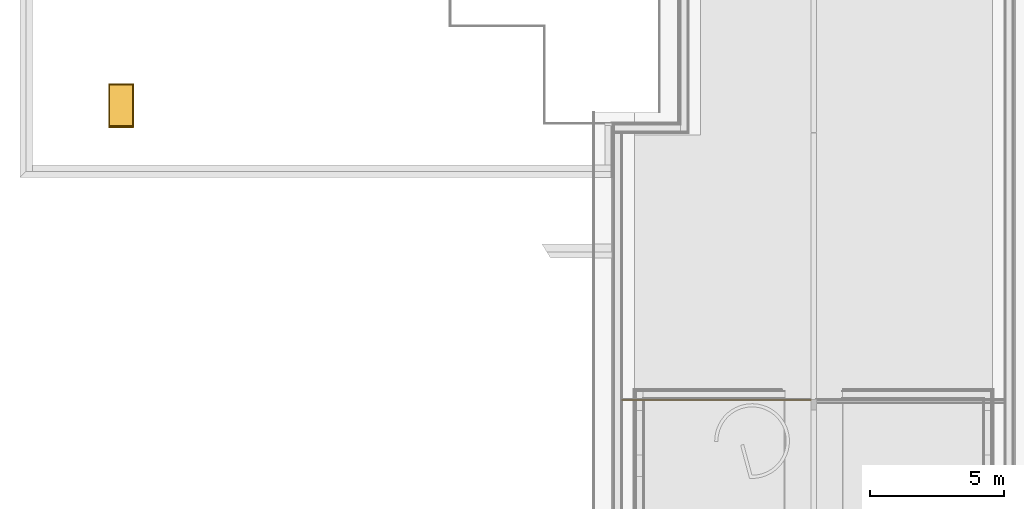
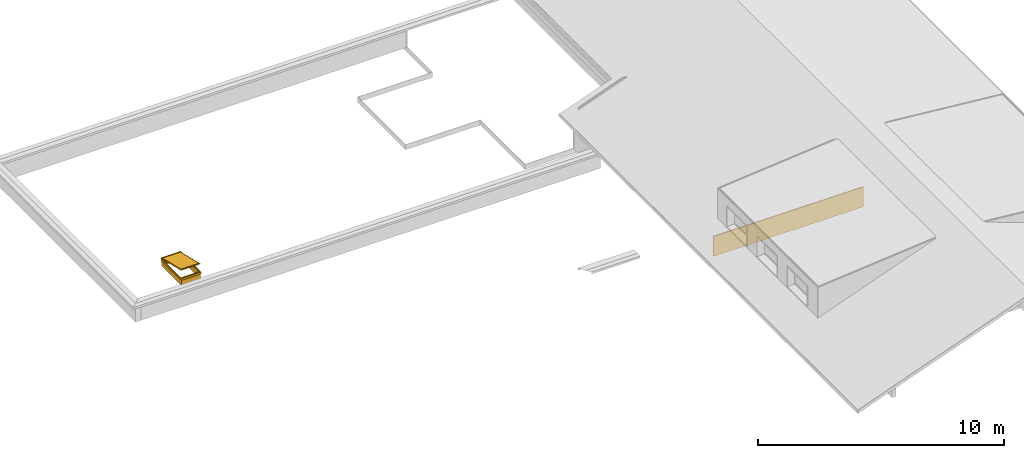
# One storey, part 11 of 12: 1 railing, 1 window.
"""IFC4 building model written with IfcOpenShell, lengths in millimetres."""

import ifcopenshell
import ifcopenshell.guid

model = None  # the IFC model being written
_history = None  # IfcOwnerHistory: only IFC2X3 demands one
_inside = {}  # id of a spatial element -> (the spatial element, [elements in it])
_under = {}  # id of a project, library or spatial element -> (it, [spatial elements below it])
_declared = {}  # id of a project -> (the project, [libraries it declares])
_typed = {}  # id of a type object -> (the type object, [elements of that type])
_made_of = {}  # id of a material, layer set ... -> (it, [elements and type objects made of it])


def new_model(schema):
    """Start an empty IFC model of exactly this schema.

    Asked for "IFC4X3", IfcOpenShell would pick the latest addendum, in which some entities
    have other attributes; the version numbers below select the first issue.
    IFC2X3 requires an IfcOwnerHistory on every rooted entity: one is made here for all.
    """
    global model, _history
    if schema == "IFC4X3":
        model = ifcopenshell.file(schema_version=(4, 3, 0, 0))
    else:
        model = ifcopenshell.file(schema=schema)
    _inside.clear()
    _under.clear()
    _declared.clear()
    _typed.clear()
    _made_of.clear()
    _history = None
    if model.schema == "IFC2X3":
        org = make("IfcOrganization", Name="unknown")
        user = make(
            "IfcPersonAndOrganization",
            ThePerson=make("IfcPerson", FamilyName="unknown"),
            TheOrganization=org,
        )
        app = make(
            "IfcApplication",
            ApplicationDeveloper=org,
            Version="unknown",
            ApplicationFullName="unknown",
            ApplicationIdentifier="unknown",
        )
        _history = make(
            "IfcOwnerHistory",
            OwningUser=user,
            OwningApplication=app,
            ChangeAction="ADDED",
            CreationDate=0,
        )
    return model


def make(cls, **values):
    """One entity of the class cls with the attributes given. An attribute that is None is left unset."""
    return model.create_entity(
        cls, **{name: value for name, value in values.items() if value is not None}
    )


def entity(cls, *values):
    """Any entity or typed value of the class cls, its attributes in the order of the schema. None: left unset."""
    e = model.create_entity(cls)
    for i, value in enumerate(values):
        if value is not None:
            e[i] = value
    return e


def rooted(cls, **values):
    """An entity with a GlobalId (a new one), such as an element, a storey or a relation."""
    return make(cls, GlobalId=ifcopenshell.guid.new(), OwnerHistory=_history, **values)


def si_unit(unit_type, name, prefix=None):
    """IfcSIUnit, for example si_unit("LENGTHUNIT", "METRE", prefix="MILLI")."""
    return make("IfcSIUnit", UnitType=unit_type, Prefix=prefix, Name=name)


def converted_unit(unit_type, name, factor, base, dimensions=None, offset=None):
    """IfcConversionBasedUnit, such as the inch: factor (a typed value) times the base unit."""
    return make(
        "IfcConversionBasedUnit"
        if offset is None
        else "IfcConversionBasedUnitWithOffset",
        ConversionOffset=offset,
        Dimensions=None
        if dimensions is None
        else entity("IfcDimensionalExponents", *dimensions),
        UnitType=unit_type,
        Name=name,
        ConversionFactor=make(
            "IfcMeasureWithUnit", ValueComponent=factor, UnitComponent=base
        ),
    )


def derived_unit(unit_type, elements):
    """IfcDerivedUnit: a product of units, each with its exponent."""
    return make(
        "IfcDerivedUnit",
        Elements=[
            make("IfcDerivedUnitElement", Unit=unit, Exponent=power)
            for unit, power in elements
        ],
        UnitType=unit_type,
    )


def assignment(units):
    """IfcUnitAssignment: the units of a project."""
    return None if units is None else make("IfcUnitAssignment", Units=units)


def point(xyz):
    """IfcCartesianPoint."""
    return None if xyz is None else make("IfcCartesianPoint", Coordinates=xyz)


def direction(xyz):
    """IfcDirection."""
    return None if xyz is None else make("IfcDirection", DirectionRatios=xyz)


def frame(location, z_axis=None, x_axis=None):
    """IfcAxis2Placement3D, a coordinate frame: its origin and axes. An axis left out is left unset."""
    return make(
        "IfcAxis2Placement3D",
        Location=point(location),
        Axis=direction(z_axis),
        RefDirection=direction(x_axis),
    )


def origin_with_axes():
    """The frame at (0, 0, 0) with the z axis (0, 0, 1) and the x axis (1, 0, 0) written out."""
    return frame((0.0, 0.0, 0.0), z_axis=(0.0, 0.0, 1.0), x_axis=(1.0, 0.0, 0.0))


def place(relative_to, where):
    """IfcLocalPlacement: puts the frame where relative to a parent placement (None: the world)."""
    return make(
        "IfcLocalPlacement", PlacementRelTo=relative_to, RelativePlacement=where
    )


def context(
    kind, dimensions, precision=None, world=None, true_north=None, identifier=None
):
    """IfcGeometricRepresentationContext, for example the 3D "Model" context."""
    return make(
        "IfcGeometricRepresentationContext",
        ContextIdentifier=identifier,
        ContextType=kind,
        CoordinateSpaceDimension=dimensions,
        Precision=precision,
        WorldCoordinateSystem=world,
        TrueNorth=true_north,
    )


def subcontext(parent, identifier, kind, view, scale=None):
    """IfcGeometricRepresentationSubContext, for example "Body" below "Model"."""
    return make(
        "IfcGeometricRepresentationSubContext",
        ContextIdentifier=identifier,
        ContextType=kind,
        ParentContext=parent,
        TargetScale=scale,
        TargetView=view,
    )


def project(units=None, contexts=None):
    """IfcProject with its units and contexts."""
    return rooted(
        "IfcProject",
        Name="project",
        RepresentationContexts=contexts,
        UnitsInContext=assignment(units),
    )


def spatial(cls, under=None, at=None, **own):
    """A site, building, storey or space (cls), placed at a placement, below another one or the project."""
    s = rooted(cls, ObjectPlacement=at, **own)
    if under is not None:
        _under.setdefault(under.id(), (under, []))[1].append(s)
    return s


def point_list(points):
    """IfcCartesianPointList2D or 3D."""
    cls = (
        "IfcCartesianPointList2D" if len(points[0]) == 2 else "IfcCartesianPointList3D"
    )
    return make(cls, CoordList=points)


def polygons(points, faces, closed=None, point_numbers=None):
    """IfcPolygonalFaceSet: a face is its outer loop, then its inner loops; points numbered from 1."""
    made = []
    for loops in faces:
        if len(loops) == 1:
            made.append(make("IfcIndexedPolygonalFace", CoordIndex=loops[0]))
        else:
            made.append(
                make(
                    "IfcIndexedPolygonalFaceWithVoids",
                    CoordIndex=loops[0],
                    InnerCoordIndices=loops[1:],
                )
            )
    return make(
        "IfcPolygonalFaceSet",
        Coordinates=point_list(points),
        Closed=closed,
        Faces=made,
        PnIndex=point_numbers,
    )


def shape(context_of_items, identifier, shape_type, items):
    """IfcShapeRepresentation: the items that make up one representation, for example the "Body"."""
    return make(
        "IfcShapeRepresentation",
        ContextOfItems=context_of_items,
        RepresentationIdentifier=identifier,
        RepresentationType=shape_type,
        Items=items,
    )


def material(Name=None, Category=None):
    """IfcMaterial."""
    return make("IfcMaterial", Name=Name, Category=Category)


def constituent(of_material, Name=None, Category=None, fraction=None):
    """IfcMaterialConstituent: one of the materials an element consists of."""
    return make(
        "IfcMaterialConstituent",
        Name=Name,
        Material=of_material,
        Fraction=fraction,
        Category=Category,
    )


def constituent_set(constituents=None, Name=None):
    """IfcMaterialConstituentSet."""
    return make(
        "IfcMaterialConstituentSet", Name=Name, MaterialConstituents=constituents
    )


def made_of(thing, what):
    """Note that an element or type object is made of a material, layer set ...; save() writes the relation."""
    if what is not None:
        _made_of.setdefault(what.id(), (what, []))[1].append(thing)
    return thing


def type_object(cls, material=None, **own):
    """A type object (cls), such as IfcWallType, which elements share."""
    return made_of(rooted(cls, **own), material)


def element(
    cls,
    number,
    at=None,
    inside=None,
    cuts=None,
    type_object=None,
    material=None,
    context=None,
    identifier="Body",
    shape_type=None,
    held_by="IfcProductDefinitionShape",
    body=None,
    shapes=None,
    **own,
):
    """One element of the class cls, such as IfcWall. Its Tag is "e" and its number.

    at: its placement. inside: the storey or other place that contains it. cuts: it is an
    opening in that element (IfcRelVoidsElement). A single representation is given by context,
    identifier, shape_type and body (its items); several are given by shapes. held_by: the class
    of the entity that holds the representations. save() writes the other relations.
    """
    e = rooted(cls, Tag="e%d" % number, ObjectPlacement=at, **own)
    if body is not None:
        shapes = [shape(context, identifier, shape_type, body)]
    if shapes is not None:
        e.Representation = make(held_by, Representations=shapes)
    if inside is not None:
        _inside.setdefault(inside.id(), (inside, []))[1].append(e)
    if cuts is not None:
        rooted(
            "IfcRelVoidsElement", RelatingBuildingElement=cuts, RelatedOpeningElement=e
        )
    if type_object is not None:
        _typed.setdefault(type_object.id(), (type_object, []))[1].append(e)
    return made_of(e, material)


def aggregate(whole, parts):
    """IfcRelAggregates: a whole, such as a stair, and the parts it consists of."""
    return rooted("IfcRelAggregates", RelatingObject=whole, RelatedObjects=parts)


def save(model, path):
    """Write the relations noted so far, then the file.

    IfcRelAggregates (storeys below a building ...), IfcRelContainedInSpatialStructure (elements
    in a storey), IfcRelDefinesByType, IfcRelAssociatesMaterial and IfcRelDeclares: one each for
    every whole, place, type object, material and project.
    """
    for whole, parts in _under.values():
        aggregate(whole, parts)
    for where, things in _inside.values():
        rooted(
            "IfcRelContainedInSpatialStructure",
            RelatedElements=things,
            RelatingStructure=where,
        )
    for kind, things in _typed.values():
        rooted("IfcRelDefinesByType", RelatedObjects=things, RelatingType=kind)
    for what, things in _made_of.values():
        rooted("IfcRelAssociatesMaterial", RelatedObjects=things, RelatingMaterial=what)
    for by, libraries in _declared.values():
        rooted("IfcRelDeclares", RelatingContext=by, RelatedDefinitions=libraries)
    model.write(path)


model = new_model("IFC4")

# Units and contexts
model_context = context("Model", 3, precision=0.01, world=origin_with_axes(), true_north=direction((0.0, 1.0)))
body_context = subcontext(model_context, "Body", "Model", "MODEL_VIEW")
ifc_project = project(units=[si_unit("LENGTHUNIT", "METRE", prefix="MILLI"), si_unit("AREAUNIT", "SQUARE_METRE"), si_unit("VOLUMEUNIT", "CUBIC_METRE"), converted_unit("PLANEANGLEUNIT", "DEGREE", entity("IfcPlaneAngleMeasure", 0.0174532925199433), si_unit("PLANEANGLEUNIT", "RADIAN"), dimensions=[0, 0, 0, 0, 0, 0, 0]), converted_unit("TIMEUNIT", "Year", entity("IfcTimeMeasure", 31557600.0), si_unit("TIMEUNIT", "SECOND"), dimensions=[0, 0, 1, 0, 0, 0, 0]), si_unit("MASSUNIT", "GRAM", prefix="KILO"), si_unit("THERMODYNAMICTEMPERATUREUNIT", "DEGREE_CELSIUS"), si_unit("LUMINOUSINTENSITYUNIT", "LUMEN"), si_unit("ENERGYUNIT", "JOULE", prefix="MEGA"), derived_unit("THERMALCONDUCTANCEUNIT", [(si_unit("POWERUNIT", "WATT"), 1), (si_unit("LENGTHUNIT", "METRE"), -1), (si_unit("THERMODYNAMICTEMPERATUREUNIT", "KELVIN"), -1)]), derived_unit("SPECIFICHEATCAPACITYUNIT", [(si_unit("ENERGYUNIT", "JOULE"), 1), (si_unit("MASSUNIT", "GRAM", prefix="KILO"), -1), (si_unit("THERMODYNAMICTEMPERATUREUNIT", "KELVIN"), -1)]), derived_unit("MASSDENSITYUNIT", [(si_unit("MASSUNIT", "GRAM", prefix="KILO"), 1), (si_unit("VOLUMEUNIT", "CUBIC_METRE"), -1)])], contexts=[model_context])

# Site, building, storey
site_placement = place(None, origin_with_axes())
site = spatial("IfcSite", under=ifc_project, at=site_placement, Name="Gelände", CompositionType="ELEMENT")
building_placement = place(site_placement, origin_with_axes())
building = spatial("IfcBuilding", under=site, at=building_placement, Name="Gebäude", CompositionType="ELEMENT")
storey_placement = place(building_placement, frame((0.0, 0.0, 11600.0), z_axis=(0.0, 0.0, 1.0), x_axis=(1.0, 0.0, 0.0)))
storey = spatial("IfcBuildingStorey", under=building, at=storey_placement, Name="Dachaufsicht", CompositionType="ELEMENT", Elevation=11600.0)

# Window
window_type = type_object("IfcWindowType", Name="Klapp-Schwing-Fenster 27", PartitioningType="NOTDEFINED", PredefinedType="NOTDEFINED")
window_placement = place(storey_placement, frame((-320.3482138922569, 27800.41342195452, -5.198845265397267e-05), z_axis=(0.0, 0.0, 1.0), x_axis=(1.0, 0.0, 0.0)))
element("IfcWindow", 1, at=window_placement, inside=storey, type_object=window_type, Name="Esstisch-4-001", PredefinedType="NOTDEFINED", context=body_context, shape_type="Tessellation", body=[
    polygons([(-438.0, 0.0, -250.0), (-438.0, 12.0, -250.0), (438.0, 12.0, -250.0), (438.0, 0.0, -250.0), (-438.0, 0.0, 0.0), (-438.0, 12.0, 0.0), (438.0, 12.0, 0.0), (438.0, 0.0, 0.0)], [[[1, 2, 3, 4]], [[1, 5, 6, 2]], [[2, 6, 7, 3]], [[4, 3, 7, 8]], [[5, 1, 4, 8]], [[6, 5, 8, 7]]], closed=True),
    polygons([(-438.0, 1600.0, 0.0), (-438.0, 1588.0, 0.0), (438.0, 1588.0, 0.0), (438.0, 1600.0, 0.0), (-438.0, 1600.0, -250.0), (-438.0, 1588.0, -250.0), (438.0, 1588.0, -250.0), (438.0, 1600.0, -250.0)], [[[1, 2, 3, 4]], [[1, 5, 6, 2]], [[2, 6, 7, 3]], [[4, 3, 7, 8]], [[5, 1, 4, 8]], [[6, 5, 8, 7]]], closed=True),
    polygons([(-450.0, 0.0, -250.0), (-450.0, 1600.0, -250.0), (-438.0, 1600.0, -250.0), (-438.0, 0.0, -250.0), (-450.0, 0.0, 0.0), (-450.0, 1600.0, 0.0), (-438.0, 1600.0, 0.0), (-438.0, 0.0, 0.0)], [[[1, 2, 3, 4]], [[1, 5, 6, 2]], [[2, 6, 7, 3]], [[4, 3, 7, 8]], [[5, 1, 4, 8]], [[6, 5, 8, 7]]], closed=True),
    polygons([(438.0, 0.0, -250.0), (438.0, 1600.0, -250.0), (450.0, 1600.0, -250.0), (450.0, 0.0, -250.0), (438.0, 0.0, 0.0), (438.0, 1600.0, 0.0), (450.0, 1600.0, 0.0), (450.0, 0.0, 0.0)], [[[1, 2, 3, 4]], [[1, 5, 6, 2]], [[2, 6, 7, 3]], [[4, 3, 7, 8]], [[5, 1, 4, 8]], [[6, 5, 8, 7]]], closed=True),
    polygons([(-465.0, -14.9999999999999, 0.0), (-465.0, -14.9999999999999, 100.0), (-465.0, 1615.0, 99.99999999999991), (-465.0, 1615.0, 0.0), (-425.0, 24.99999999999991, 0.0), (-425.0, 24.99999999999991, 80.0), (-440.0, 10.00000000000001, 80.0), (-440.0, 10.00000000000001, 100.0), (-440.0, 1590.0, 99.99999999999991), (-440.0, 1590.0, 79.9999999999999), (-425.0, 1575.0, 79.9999999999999), (-425.0, 1575.0, 0.0)], [[[1, 2, 3, 4]], [[2, 1, 5, 6, 7, 8]], [[2, 8, 9, 3]], [[4, 3, 9, 10, 11, 12]], [[1, 4, 12, 5]], [[6, 5, 12, 11]], [[7, 6, 11, 10]], [[8, 7, 10, 9]]], closed=True),
    polygons([(425.0, 24.99999999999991, 0.0), (425.0, 24.99999999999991, 80.0), (425.0, 1575.0, 79.9999999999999), (425.0, 1575.0, 0.0), (440.0, 10.00000000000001, 80.0), (465.0, -14.9999999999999, 0.0), (465.0, -14.9999999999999, 100.0), (440.0, 10.00000000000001, 100.0), (440.0, 1590.0, 79.9999999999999), (440.0, 1590.0, 99.99999999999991), (465.0, 1615.0, 99.99999999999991), (465.0, 1615.0, 0.0)], [[[1, 2, 3, 4]], [[5, 2, 1, 6, 7, 8]], [[2, 5, 9, 3]], [[4, 3, 9, 10, 11, 12]], [[1, 4, 12, 6]], [[12, 11, 7, 6]], [[10, 8, 7, 11]], [[5, 8, 10, 9]]], closed=True),
    polygons([(-465.0, -15.0, 0.0), (-465.0, -14.99999999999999, 100.0), (-440.0, 10.00000000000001, 100.0), (-440.0, 10.00000000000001, 80.0), (-425.0000000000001, 25.0, 80.0), (-425.0000000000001, 25.0, 0.0), (465.0000000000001, -15.00000000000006, 0.0), (465.0000000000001, -15.00000000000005, 100.0), (440.0, 9.999999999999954, 100.0), (440.0, 9.999999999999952, 80.0), (425.0000000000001, 24.99999999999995, 80.0), (425.0000000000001, 24.99999999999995, 0.0)], [[[1, 2, 3, 4, 5, 6]], [[2, 1, 7, 8]], [[3, 2, 8, 9]], [[4, 3, 9, 10]], [[5, 4, 10, 11]], [[11, 12, 6, 5]], [[7, 1, 6, 12]], [[10, 9, 8, 7, 12, 11]]], closed=True),
    polygons([(-425.0, 1575.0, 79.9999999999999), (-439.9999999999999, 1590.0, 79.9999999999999), (-439.9999999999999, 1590.0, 99.99999999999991), (-465.0, 1615.0, 99.99999999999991), (-465.0, 1615.0, 0.0), (-425.0, 1575.0, 0.0), (425.0000000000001, 1575.0, 79.9999999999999), (440.0, 1590.0, 79.9999999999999), (440.0, 1590.0, 99.99999999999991), (465.0000000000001, 1615.0, 99.99999999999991), (465.0000000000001, 1615.0, 0.0), (425.0000000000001, 1575.0, 0.0)], [[[1, 2, 3, 4, 5, 6]], [[2, 1, 7, 8]], [[3, 2, 8, 9]], [[4, 3, 9, 10]], [[5, 4, 10, 11]], [[6, 5, 11, 12]], [[12, 7, 1, 6]], [[7, 12, 11, 10, 9, 8]]], closed=True),
    polygons([(-425.0, 25.00000000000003, 0.0), (-425.0, 80.00000000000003, 0.0), (425.0, 79.99999999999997, 0.0), (425.0, 24.99999999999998, 0.0), (-425.0, 25.00000000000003, 75.00000000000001), (-425.0, 86.00000000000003, 75.00000000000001), (-425.0, 86.00000000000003, 39.99999999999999), (425.0, 85.99999999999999, 39.99999999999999), (425.0, 85.99999999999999, 75.00000000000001), (425.0, 24.99999999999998, 75.00000000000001)], [[[1, 2, 3, 4]], [[1, 5, 6, 7, 2]], [[2, 7, 8, 3]], [[4, 3, 8, 9, 10]], [[5, 1, 4, 10]], [[6, 5, 10, 9]], [[7, 6, 9, 8]]], closed=True),
    polygons([(-475.0000000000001, 1615.0, 39.9999999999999), (-475.0000000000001, 1615.0, 98.9999999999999), (-475.0000000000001, -25.00000000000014, 99.0), (-475.0000000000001, -25.00000000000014, 40.00000000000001), (-451.557370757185, 1615.0, 101.9999999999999), (-451.557370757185, -1.557370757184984, 102.0), (-451.557370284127, 1615.0, 111.9999999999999), (-451.557370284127, -1.557370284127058, 112.0)], [[[1, 2, 3, 4]], [[2, 5, 6, 3]], [[5, 7, 8, 6]]], closed=False),
    polygons([(475.0000000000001, 1615.0, 39.9999999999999), (475.0000000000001, -25.00000000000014, 40.00000000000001), (475.0000000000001, -25.00000000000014, 99.0), (475.0000000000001, 1615.0, 98.9999999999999), (451.557370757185, -1.557370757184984, 102.0), (451.557370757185, 1615.0, 101.9999999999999), (451.557370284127, -1.557370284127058, 112.0), (451.557370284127, 1615.0, 111.9999999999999)], [[[1, 2, 3, 4]], [[4, 3, 5, 6]], [[6, 5, 7, 8]]], closed=False),
    polygons([(-475.0000000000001, -25.0, 40.0), (-475.0000000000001, -24.99999999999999, 99.0), (474.9999999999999, -25.00000000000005, 99.0), (474.9999999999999, -25.00000000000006, 40.0), (-451.557370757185, -1.557370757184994, 102.0), (451.5573707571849, -1.557370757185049, 102.0), (-451.557370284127, -1.557370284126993, 112.0), (451.557370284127, -1.557370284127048, 112.0)], [[[1, 2, 3, 4]], [[2, 5, 6, 3]], [[7, 8, 6, 5]]], closed=False),
    polygons([(-405.0, 53.4200368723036, 445.7785657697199), (-405.0, 1551.17043439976, 87.52761084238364), (-399.0, 1553.942371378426, 124.9083059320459), (-399.0, 62.02736501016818, 481.7634779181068), (-435.0, 53.4200368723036, 445.7785657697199), (-435.0, 1580.347390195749, 80.54869613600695), (-435.0, 1590.117870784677, 121.3964342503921), (-415.0000000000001, 1570.666566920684, 126.0490440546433), (-415.0000000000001, 1569.503414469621, 121.186218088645), (-415.0000000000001, 62.02736501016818, 481.7634779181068), (-415.0000000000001, 63.19051746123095, 486.6263038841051), (-435.0, 63.19051746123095, 486.6263038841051)], [[[1, 2, 3, 4]], [[5, 6, 2, 1]], [[2, 6, 7, 8, 9, 3]], [[4, 3, 9, 10]], [[1, 4, 10, 11, 12, 5]], [[12, 7, 6, 5]], [[11, 8, 7, 12]], [[10, 9, 8, 11]]], closed=True),
    polygons([(405.0, 53.4200368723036, 445.7785657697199), (399.0, 62.02736501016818, 481.7634779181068), (399.0, 1553.942371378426, 124.9083059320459), (405.0, 1551.17043439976, 87.52761084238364), (435.0, 53.4200368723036, 445.7785657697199), (435.0, 63.19051746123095, 486.6263038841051), (415.0000000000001, 63.19051746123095, 486.6263038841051), (415.0000000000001, 62.02736501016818, 481.7634779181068), (415.0000000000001, 1569.503414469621, 121.186218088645), (415.0000000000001, 1570.666566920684, 126.0490440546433), (435.0, 1590.117870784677, 121.3964342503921), (435.0, 1580.347390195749, 80.54869613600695)], [[[1, 2, 3, 4]], [[1, 5, 6, 7, 8, 2]], [[2, 8, 9, 3]], [[4, 3, 9, 10, 11, 12]], [[5, 1, 4, 12]], [[6, 5, 12, 11]], [[7, 6, 11, 10]], [[8, 7, 10, 9]]], closed=True),
    polygons([(399.0000000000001, 1553.942371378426, 124.9083059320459), (-399.0000000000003, 1553.942371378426, 124.9083059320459), (-405.0000000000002, 1551.170434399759, 87.5276108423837), (404.9999999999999, 1551.17043439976, 87.52761084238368), (415.0000000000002, 1569.503414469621, 121.186218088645), (-415.0000000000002, 1569.503414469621, 121.1862180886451), (-415.0000000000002, 1570.666566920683, 126.0490440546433), (-435.0000000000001, 1590.117870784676, 121.3964342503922), (-435.0000000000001, 1580.347390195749, 80.54869613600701), (435.0000000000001, 1580.347390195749, 80.548696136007), (435.0000000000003, 1590.117870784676, 121.3964342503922), (414.9999999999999, 1570.666566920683, 126.0490440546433)], [[[1, 2, 3, 4]], [[5, 6, 2, 1]], [[3, 2, 6, 7, 8, 9]], [[4, 3, 9, 10]], [[4, 10, 11, 12, 5, 1]], [[12, 7, 6, 5]], [[11, 8, 7, 12]], [[10, 9, 8, 11]]], closed=True),
    polygons([(-405.0, 53.42003687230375, 445.7785657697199), (-405.0, 117.6093396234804, 430.4249534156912), (405.0, 117.6093396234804, 430.4249534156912), (405.0, 53.4200368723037, 445.7785657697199), (-399.0000000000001, 62.02736501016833, 481.7634779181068), (-399.0000000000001, 132.0520589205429, 465.0140826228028), (399.0, 132.0520589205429, 465.0140826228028), (399.0, 62.02736501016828, 481.7634779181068)], [[[1, 2, 3, 4]], [[1, 5, 6, 2]], [[2, 6, 7, 3]], [[7, 8, 4, 3]], [[5, 1, 4, 8]], [[7, 6, 5, 8]]], closed=True),
    polygons([(-462.0, 1615.510799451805, 98.5975250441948), (-462.0, 1618.422225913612, 110.7694120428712), (-462.0, 36.05865657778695, 489.2592196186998), (-462.0, 33.14723011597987, 477.0873326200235), (-429.5666314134, 1623.714805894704, 132.8962582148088), (-429.5666314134, 72.8948019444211, 503.8410753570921), (-401.4434794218, 1623.714805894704, 132.8962582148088), (-401.4434794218, 100.2464006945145, 497.298772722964), (-403.7342647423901, 1622.319022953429, 127.0608670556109), (-403.7342647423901, 96.62267968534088, 491.9962880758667)], [[[1, 2, 3, 4]], [[2, 5, 6, 3]], [[5, 7, 8, 6]], [[7, 9, 10, 8]]], closed=False),
    polygons([(462.0, 1615.510799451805, 98.5975250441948), (462.0, 33.14723011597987, 477.0873326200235), (462.0, 36.05865657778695, 489.2592196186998), (462.0, 1618.422225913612, 110.7694120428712), (429.5666314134, 72.8948019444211, 503.8410753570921), (429.5666314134, 1623.714805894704, 132.8962582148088), (401.4434794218, 100.2464006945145, 497.298772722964), (401.4434794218, 1623.714805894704, 132.8962582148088), (403.7342647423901, 96.62267968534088, 491.9962880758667), (403.7342647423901, 1622.319022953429, 127.0608670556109)], [[[1, 2, 3, 4]], [[4, 3, 5, 6]], [[6, 5, 7, 8]], [[8, 7, 9, 10]]], closed=False),
    polygons([(-461.9999999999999, 36.05865657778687, 489.2592196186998), (462.0000000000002, 36.05865657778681, 489.2592196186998), (462.0000000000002, 33.14723011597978, 477.0873326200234), (-461.9999999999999, 33.14723011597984, 477.0873326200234), (-429.5666314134, 72.8948019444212, 503.8410753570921), (429.5666314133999, 72.89480194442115, 503.8410753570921), (-401.4434794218, 100.2464006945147, 497.298772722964), (401.4434794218, 100.2464006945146, 497.298772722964), (-403.7342647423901, 96.6226796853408, 491.9962880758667), (403.7342647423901, 96.62267968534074, 491.9962880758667)], [[[1, 2, 3, 4]], [[5, 6, 2, 1]], [[7, 8, 6, 5]], [[9, 10, 8, 7]]], closed=False),
    polygons([(402.9999999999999, 1567.835743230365, 165.7980872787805), (-403.0, 1567.835743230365, 165.7980872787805), (-403.0, 1566.207329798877, 158.990130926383), (403.0000000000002, 1566.207329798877, 158.990130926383), (449.9999999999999, 1613.546307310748, 154.8644542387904), (-449.9999999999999, 1613.546307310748, 154.8644542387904), (477.0000000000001, 1633.5245442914, 122.3241707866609), (-476.9999999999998, 1633.524544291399, 122.324170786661), (477.0000000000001, 1626.545629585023, 93.14721499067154), (-477.0000000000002, 1626.545629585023, 93.14721499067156)], [[[1, 2, 3, 4]], [[5, 6, 2, 1]], [[7, 8, 6, 5]], [[9, 10, 8, 7]]], closed=False),
    polygons([(-450.0, 1613.546307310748, 154.8644542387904), (-450.0, 1567.835743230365, 165.7980872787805), (-403.0, 1567.835743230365, 165.7980872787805), (-477.0000000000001, 1633.524544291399, 122.324170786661), (-477.0000000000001, 1561.554719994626, 139.5388270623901), (-477.0000000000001, 1626.545629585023, 93.14721499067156), (-477.0000000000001, 1554.575805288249, 110.3618712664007)], [[[1, 2, 3]], [[4, 5, 2, 1]], [[6, 7, 5, 4]]], closed=False),
    polygons([(403.0, 1567.835743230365, 165.7980872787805), (450.0, 1567.835743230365, 165.7980872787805), (450.0, 1613.546307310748, 154.8644542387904), (477.0000000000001, 1561.554719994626, 139.5388270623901), (477.0000000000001, 1633.524544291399, 122.324170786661), (477.0000000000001, 1554.575805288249, 110.3618712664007), (477.0000000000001, 1626.545629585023, 93.14721499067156)], [[[1, 2, 3]], [[3, 2, 4, 5]], [[5, 4, 6, 7]]], closed=False),
    polygons([(413.0000000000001, 83.42379926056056, 476.6456071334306), (413.0000000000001, 1567.558284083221, 121.6514790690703), (413.0000000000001, 1571.745632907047, 139.1576525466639), (413.0000000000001, 87.61114808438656, 494.1517806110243), (-413.0000000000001, 83.42379926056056, 476.6456071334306), (-413.0000000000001, 1567.558284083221, 121.6514790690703), (-413.0000000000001, 1571.745632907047, 139.1576525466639), (-413.0000000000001, 87.61114808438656, 494.1517806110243)], [[[1, 2, 3, 4]], [[1, 5, 6, 2]], [[2, 6, 7, 3]], [[4, 3, 7, 8]], [[5, 1, 4, 8]], [[6, 5, 8, 7]]], closed=True),
])

# Railing
ifc_material_1 = material(Name="Stahl")
ifc_constituent_1 = constituent(ifc_material_1, Name="Stahl 1")
ifc_constituent_2 = constituent(ifc_material_1, Name="Stahl 2")
ifc_constituent_3 = constituent(ifc_material_1, Name="Stahl 3")
ifc_constituent_4 = constituent(ifc_material_1, Name="Stahl 4")
ifc_constituent_5 = constituent(ifc_material_1, Name="Stahl 5")
ifc_material_2 = material(Name="Glas")
ifc_constituent_6 = constituent(ifc_material_2, Name="Glas")
ifc_constituent_set = constituent_set(constituents=[ifc_constituent_1, ifc_constituent_2, ifc_constituent_3, ifc_constituent_4, ifc_constituent_5, ifc_constituent_6])
railing_type = type_object("IfcRailingType", Name="Geländerart", PredefinedType="NOTDEFINED")
railing_placement = place(storey_placement, frame((25328.99744442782, 17662.67011252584, 650.0000000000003), z_axis=(0.0, 0.0, 1.0), x_axis=(1.0, 0.0, 0.0)))
element("IfcRailing", 2, at=railing_placement, inside=storey, type_object=railing_type, material=ifc_constituent_set, Name="Geländer-001", PredefinedType="NOTDEFINED", context=body_context, shape_type="Tessellation", body=[
    polygons([(-7.500000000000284, 22.50000000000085, 0.0), (-7.500000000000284, -22.50000000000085, 0.0), (-7.500000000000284, -22.50000000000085, 984.9999999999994), (-7.500000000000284, 22.50000000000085, 984.9999999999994), (7.500000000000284, 22.50000000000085, 0.0), (7.500000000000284, -22.50000000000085, 0.0), (7.500000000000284, -22.50000000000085, 984.9999999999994), (7.500000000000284, 22.50000000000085, 984.9999999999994)], [[[1, 2, 3, 4]], [[1, 5, 6, 2]], [[2, 6, 7, 3]], [[4, 3, 7, 8]], [[5, 1, 4, 8]], [[6, 5, 8, 7]]], closed=True),
    polygons([(0.0, -22.50000000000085, 1000.0), (0.0, -22.50000000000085, 984.9999999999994), (7.500000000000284, -22.50000000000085, 984.9999999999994), (7.500000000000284, -22.50000000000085, 1000.0), (0.0, 22.50000000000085, 1000.0), (0.0, 22.50000000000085, 984.9999999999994), (7.500000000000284, 22.50000000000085, 984.9999999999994), (7.500000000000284, 22.50000000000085, 1000.0)], [[[1, 2, 3, 4]], [[1, 5, 6, 2]], [[2, 6, 7, 3]], [[4, 3, 7, 8]], [[5, 1, 4, 8]], [[6, 5, 8, 7]]], closed=True),
    polygons([(-7028.499999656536, 22.50000000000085, 0.0), (-7028.499999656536, -22.50000000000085, 0.0), (-7028.499999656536, -22.50000000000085, 985.0000000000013), (-7028.499999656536, 22.50000000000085, 985.0000000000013), (-7013.499999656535, 22.50000000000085, 0.0), (-7013.499999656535, -22.50000000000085, 0.0), (-7013.499999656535, -22.50000000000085, 985.0000000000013), (-7013.499999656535, 22.50000000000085, 985.0000000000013)], [[[1, 2, 3, 4]], [[1, 5, 6, 2]], [[2, 6, 7, 3]], [[4, 3, 7, 8]], [[5, 1, 4, 8]], [[6, 5, 8, 7]]], closed=True),
    polygons([(-7020.999999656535, 22.50000000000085, 1000.000000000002), (-7020.999999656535, 22.50000000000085, 985.0000000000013), (-7028.499999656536, 22.50000000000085, 985.0000000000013), (-7028.499999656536, 22.50000000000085, 1000.000000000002), (-7020.999999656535, -22.50000000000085, 1000.000000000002), (-7020.999999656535, -22.50000000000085, 985.0000000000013), (-7028.499999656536, -22.50000000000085, 985.0000000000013), (-7028.499999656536, -22.50000000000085, 1000.000000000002)], [[[1, 2, 3, 4]], [[1, 5, 6, 2]], [[2, 6, 7, 3]], [[4, 3, 7, 8]], [[5, 1, 4, 8]], [[6, 5, 8, 7]]], closed=True),
    polygons([(0.0, 22.5, 1000.0), (0.0, 22.5, 985.0), (-7020.999999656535, 22.5, 985.0000000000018), (-7020.999999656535, 22.5, 1000.000000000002), (0.0, -22.5, 1000.0), (0.0, -22.5, 985.0), (-7020.999999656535, -22.5, 985.0000000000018), (-7020.999999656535, -22.5, 1000.000000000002)], [[[1, 2, 3, 4]], [[1, 5, 6, 2]], [[2, 6, 7, 3]], [[4, 3, 7, 8]], [[5, 1, 4, 8]], [[6, 5, 8, 7]]], closed=True),
    polygons([(-7020.999999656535, -9.99999999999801, 0.0), (0.0, -10.00000000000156, 0.0), (0.0, -10.00000000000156, 984.9999999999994), (-7020.999999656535, -9.99999999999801, 985.0000000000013), (0.0, 10.00000000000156, 0.0), (-7020.999999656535, 10.00000000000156, 0.0), (0.0, 10.00000000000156, 984.9999999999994), (-7020.999999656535, 10.00000000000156, 985.0000000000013)], [[[1, 2, 3, 4]], [[5, 2, 1, 6]], [[7, 3, 2, 5]], [[4, 3, 7, 8]], [[1, 4, 8, 6]], [[7, 5, 6, 8]]], closed=True),
])

save(model, "model.ifc")
